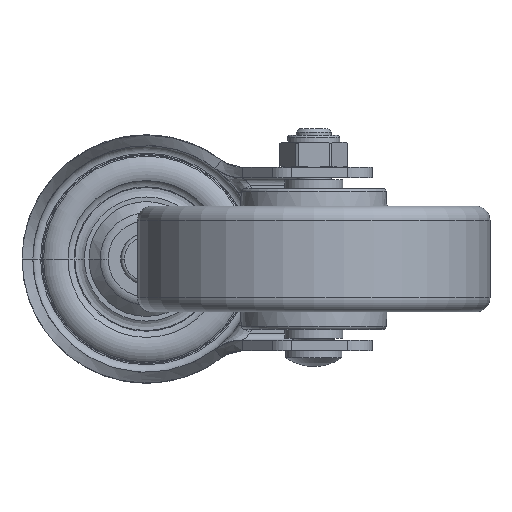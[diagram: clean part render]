
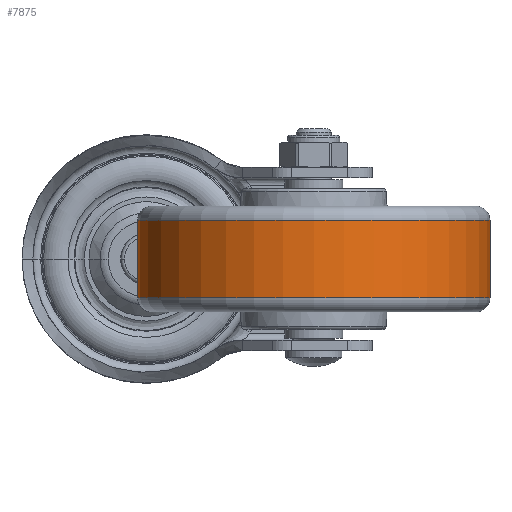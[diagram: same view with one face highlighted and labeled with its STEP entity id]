
A CAD part, front view. The second image highlights one B-rep face of the part: STEP entity #7875.
In plain terms, the highlighted cylindrical face has radius 50 mm (diameter 100 mm), a partial arc.
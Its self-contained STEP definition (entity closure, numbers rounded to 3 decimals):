
#7235=CARTESIAN_POINT('',(-11.,0.,0.));
#7236=DIRECTION('',(1.,0.,0.));
#7237=DIRECTION('',(0.,-1.,0.));
#7238=AXIS2_PLACEMENT_3D('',#7235,#7236,#7237);
#7245=DIRECTION('',(-1.,0.,0.));
#7246=VECTOR('',#7245,22.);
#7247=CARTESIAN_POINT('',(11.,50.,0.));
#7248=LINE('',#7247,#7246);
#7249=DIRECTION('',(-1.,0.,0.));
#7250=VECTOR('',#7249,22.);
#7251=CARTESIAN_POINT('',(11.,-50.,0.));
#7252=LINE('',#7251,#7250);
#7268=CARTESIAN_POINT('',(11.,0.,0.));
#7269=DIRECTION('',(-1.,0.,0.));
#7270=DIRECTION('',(0.,1.,0.));
#7271=AXIS2_PLACEMENT_3D('',#7268,#7269,#7270);
#7705=CARTESIAN_POINT('',(-11.,-50.,0.));
#7706=VERTEX_POINT('',#7705);
#7707=CARTESIAN_POINT('',(-11.,50.,0.));
#7708=VERTEX_POINT('',#7707);
#7709=CARTESIAN_POINT('',(11.,-50.,0.));
#7710=VERTEX_POINT('',#7709);
#7711=CARTESIAN_POINT('',(11.,50.,0.));
#7712=VERTEX_POINT('',#7711);
#7861=CARTESIAN_POINT('',(-16.5,0.,0.));
#7862=DIRECTION('',(1.,0.,0.));
#7863=DIRECTION('',(0.,-1.,0.));
#7864=AXIS2_PLACEMENT_3D('',#7861,#7862,#7863);
#7865=CYLINDRICAL_SURFACE('',#7864,50.);
#7867=ORIENTED_EDGE('',*,*,#7866,.F.);
#7869=ORIENTED_EDGE('',*,*,#7868,.F.);
#7871=ORIENTED_EDGE('',*,*,#7870,.T.);
#7872=ORIENTED_EDGE('',*,*,#7854,.F.);
#7873=EDGE_LOOP('',(#7867,#7869,#7871,#7872));
#7874=FACE_OUTER_BOUND('',#7873,.F.);
#7239=CIRCLE('',#7238,50.);
#7272=CIRCLE('',#7271,50.);
#7854=EDGE_CURVE('',#7706,#7708,#7239,.T.);
#7866=EDGE_CURVE('',#7710,#7706,#7252,.T.);
#7868=EDGE_CURVE('',#7712,#7710,#7272,.T.);
#7870=EDGE_CURVE('',#7712,#7708,#7248,.T.);
#7875=ADVANCED_FACE('',(#7874),#7865,.T.);
